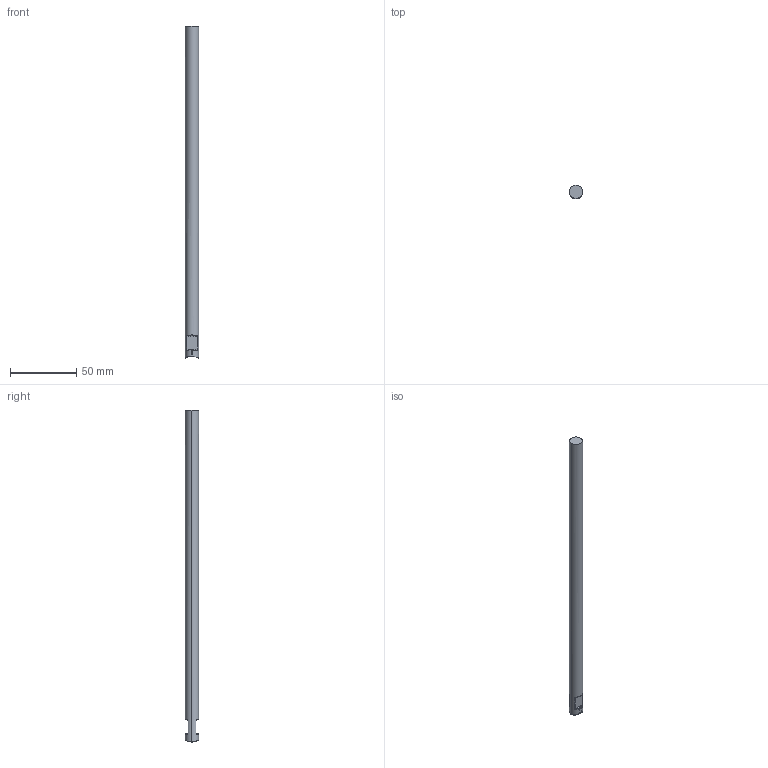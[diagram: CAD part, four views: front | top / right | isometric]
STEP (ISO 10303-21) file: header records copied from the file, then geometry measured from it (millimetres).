
FILE_DESCRIPTION (( 'STEP AP214' ), '1' );
FILE_NAME ('CBMM10DL250.STEP', '2011-08-03T19:25:03', ( '' ), ( '' ), 'SwSTEP 2.0', 'SolidWorks 2010', '' );
FILE_SCHEMA (( 'AUTOMOTIVE_DESIGN' ));
Length unit declared in the file: millimetre
Products named in the file (1): CBMM10DL250
Bounding box: 10 x 10 x 251.17 mm (x, y, z)
Volume: 19412.5 mm3; surface area: 8034.9 mm2
Topology: 1 solids, 1 shells, 49 faces, 121 edges, 74 vertices
Faces by surface type: cylinder 16, bspline 16, torus 12, plane 5
Entity records: 3853 total; most frequent: CARTESIAN_POINT 2771, ORIENTED_EDGE 242, DIRECTION 187, EDGE_CURVE 121, AXIS2_PLACEMENT_3D 84, VERTEX_POINT 74, B_SPLINE_CURVE_WITH_KNOTS 52, CIRCLE 50
